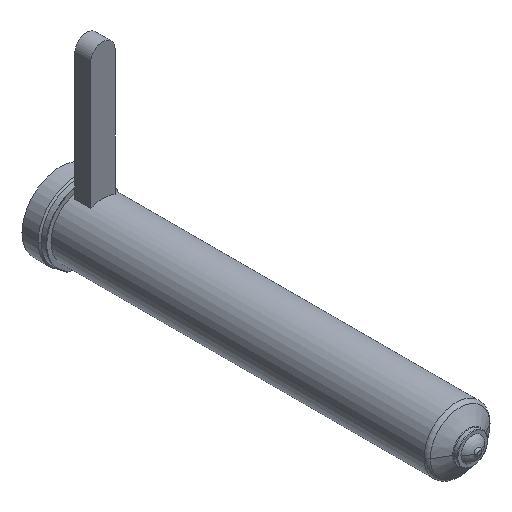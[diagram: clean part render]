
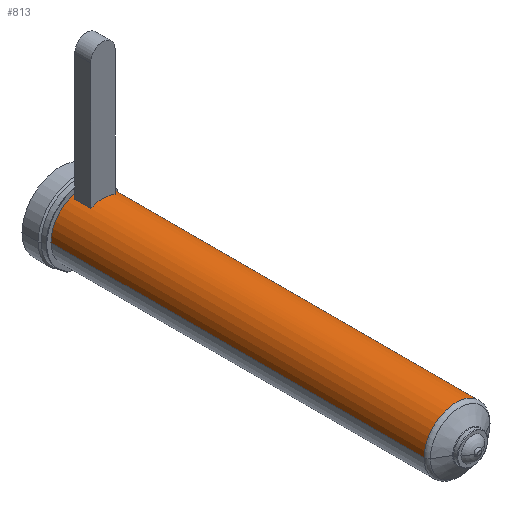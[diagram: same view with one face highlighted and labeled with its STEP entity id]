
A CAD part, isometric view. The second image highlights one B-rep face of the part: STEP entity #813.
In plain terms, the highlighted cylindrical face has radius 21 mm (diameter 42 mm), a partial arc.
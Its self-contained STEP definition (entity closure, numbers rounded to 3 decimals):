
#199=DIRECTION('',(0.,-1.,0.));
#200=VECTOR('',#199,244.528);
#201=CARTESIAN_POINT('',(21.,0.,0.));
#202=LINE('',#201,#200);
#203=CARTESIAN_POINT('',(0.,-244.528,0.));
#204=DIRECTION('',(0.,1.,0.));
#205=DIRECTION('',(-1.,0.,0.));
#206=AXIS2_PLACEMENT_3D('',#203,#204,#205);
#208=DIRECTION('',(0.,1.,0.));
#209=VECTOR('',#208,244.528);
#210=CARTESIAN_POINT('',(-21.,-244.528,0.));
#211=LINE('',#210,#209);
#212=CARTESIAN_POINT('',(0.,0.,0.));
#213=DIRECTION('',(0.,1.,0.));
#214=DIRECTION('',(-1.,0.,0.));
#215=AXIS2_PLACEMENT_3D('',#212,#213,#214);
#379=DIRECTION('',(0.,-1.,0.));
#380=VECTOR('',#379,10.5);
#381=CARTESIAN_POINT('',(-8.,-2.5,19.416));
#382=LINE('',#381,#380);
#383=CARTESIAN_POINT('',(0.,-13.,0.));
#384=DIRECTION('',(0.,1.,0.));
#385=DIRECTION('',(-0.381,0.,0.925));
#386=AXIS2_PLACEMENT_3D('',#383,#384,#385);
#409=CARTESIAN_POINT('',(0.,-2.5,0.));
#410=DIRECTION('',(0.,-1.,0.));
#411=DIRECTION('',(0.381,0.,0.925));
#412=AXIS2_PLACEMENT_3D('',#409,#410,#411);
#427=DIRECTION('',(0.,-1.,0.));
#428=VECTOR('',#427,10.5);
#429=CARTESIAN_POINT('',(8.,-2.5,19.416));
#430=LINE('',#429,#428);
#488=CARTESIAN_POINT('',(-21.,0.,0.));
#489=CARTESIAN_POINT('',(21.,0.,0.));
#490=VERTEX_POINT('',#488);
#491=VERTEX_POINT('',#489);
#500=CARTESIAN_POINT('',(-8.,-2.5,19.416));
#501=VERTEX_POINT('',#500);
#502=CARTESIAN_POINT('',(8.,-2.5,19.416));
#503=VERTEX_POINT('',#502);
#540=CARTESIAN_POINT('',(21.,-244.528,0.));
#541=VERTEX_POINT('',#540);
#550=CARTESIAN_POINT('',(-21.,-244.528,0.));
#551=VERTEX_POINT('',#550);
#572=CARTESIAN_POINT('',(-8.,-13.,19.416));
#573=CARTESIAN_POINT('',(8.,-13.,19.416));
#574=VERTEX_POINT('',#572);
#575=VERTEX_POINT('',#573);
#791=CARTESIAN_POINT('',(0.,16.4,0.));
#792=DIRECTION('',(0.,-1.,0.));
#793=DIRECTION('',(-1.,0.,0.));
#794=AXIS2_PLACEMENT_3D('',#791,#792,#793);
#795=CYLINDRICAL_SURFACE('',#794,21.);
#796=ORIENTED_EDGE('',*,*,#785,.T.);
#798=ORIENTED_EDGE('',*,*,#797,.F.);
#799=ORIENTED_EDGE('',*,*,#781,.T.);
#800=ORIENTED_EDGE('',*,*,#771,.T.);
#801=EDGE_LOOP('',(#796,#798,#799,#800));
#802=FACE_OUTER_BOUND('',#801,.F.);
#804=ORIENTED_EDGE('',*,*,#803,.T.);
#806=ORIENTED_EDGE('',*,*,#805,.T.);
#808=ORIENTED_EDGE('',*,*,#807,.F.);
#810=ORIENTED_EDGE('',*,*,#809,.T.);
#811=EDGE_LOOP('',(#804,#806,#808,#810));
#812=FACE_BOUND('',#811,.F.);
#813=ADVANCED_FACE('',(#802,#812),#795,.T.);
#207=CIRCLE('',#206,21.);
#216=CIRCLE('',#215,21.);
#387=CIRCLE('',#386,21.);
#413=CIRCLE('',#412,21.);
#771=EDGE_CURVE('',#490,#491,#216,.T.);
#781=EDGE_CURVE('',#551,#490,#211,.T.);
#785=EDGE_CURVE('',#491,#541,#202,.T.);
#797=EDGE_CURVE('',#551,#541,#207,.T.);
#803=EDGE_CURVE('',#501,#574,#382,.T.);
#805=EDGE_CURVE('',#574,#575,#387,.T.);
#807=EDGE_CURVE('',#503,#575,#430,.T.);
#809=EDGE_CURVE('',#503,#501,#413,.T.);
